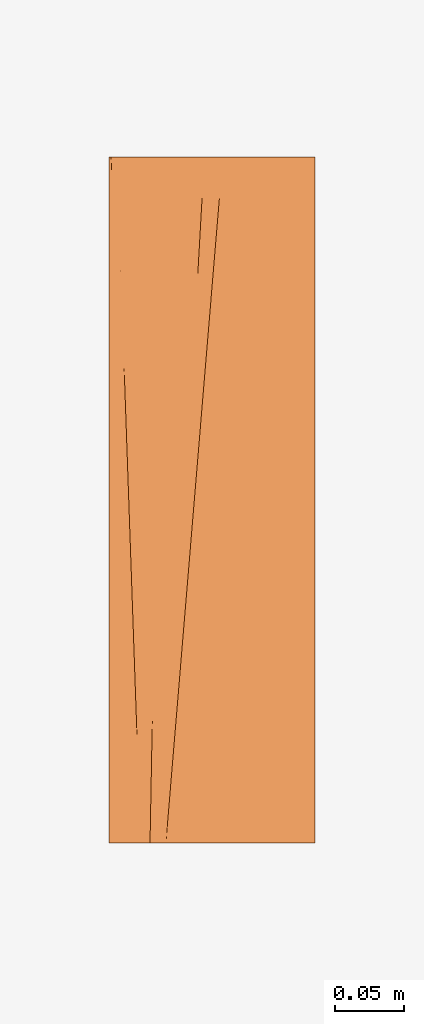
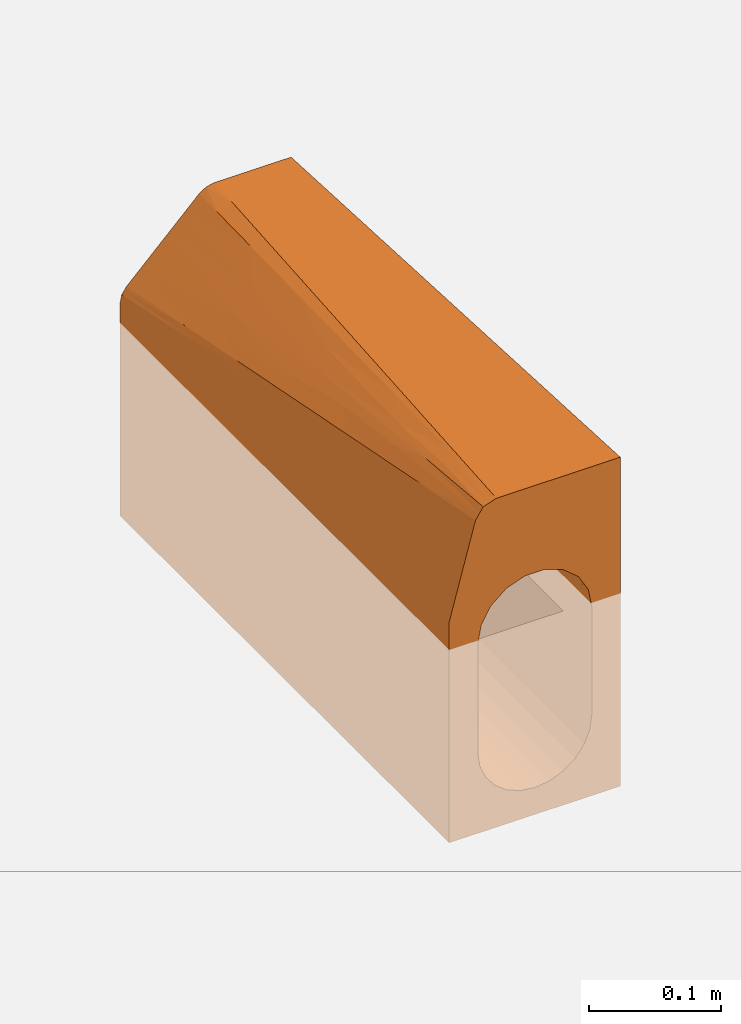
# One storey, part 2 of 2: 1 proxy.
"""IFC2X3 building model written with IfcOpenShell, lengths in millimetres."""

import ifcopenshell
import ifcopenshell.guid

model = None  # the IFC model being written
_history = None  # IfcOwnerHistory: only IFC2X3 demands one
_inside = {}  # id of a spatial element -> (the spatial element, [elements in it])
_under = {}  # id of a project, library or spatial element -> (it, [spatial elements below it])
_declared = {}  # id of a project -> (the project, [libraries it declares])
_typed = {}  # id of a type object -> (the type object, [elements of that type])
_made_of = {}  # id of a material, layer set ... -> (it, [elements and type objects made of it])


def new_model(schema):
    """Start an empty IFC model of exactly this schema.

    Asked for "IFC4X3", IfcOpenShell would pick the latest addendum, in which some entities
    have other attributes; the version numbers below select the first issue.
    IFC2X3 requires an IfcOwnerHistory on every rooted entity: one is made here for all.
    """
    global model, _history
    if schema == "IFC4X3":
        model = ifcopenshell.file(schema_version=(4, 3, 0, 0))
    else:
        model = ifcopenshell.file(schema=schema)
    _inside.clear()
    _under.clear()
    _declared.clear()
    _typed.clear()
    _made_of.clear()
    _history = None
    if model.schema == "IFC2X3":
        org = make("IfcOrganization", Name="unknown")
        user = make(
            "IfcPersonAndOrganization",
            ThePerson=make("IfcPerson", FamilyName="unknown"),
            TheOrganization=org,
        )
        app = make(
            "IfcApplication",
            ApplicationDeveloper=org,
            Version="unknown",
            ApplicationFullName="unknown",
            ApplicationIdentifier="unknown",
        )
        _history = make(
            "IfcOwnerHistory",
            OwningUser=user,
            OwningApplication=app,
            ChangeAction="ADDED",
            CreationDate=0,
        )
    return model


def make(cls, **values):
    """One entity of the class cls with the attributes given. An attribute that is None is left unset."""
    return model.create_entity(
        cls, **{name: value for name, value in values.items() if value is not None}
    )


def entity(cls, *values):
    """Any entity or typed value of the class cls, its attributes in the order of the schema. None: left unset."""
    e = model.create_entity(cls)
    for i, value in enumerate(values):
        if value is not None:
            e[i] = value
    return e


def rooted(cls, **values):
    """An entity with a GlobalId (a new one), such as an element, a storey or a relation."""
    return make(cls, GlobalId=ifcopenshell.guid.new(), OwnerHistory=_history, **values)


def si_unit(unit_type, name, prefix=None):
    """IfcSIUnit, for example si_unit("LENGTHUNIT", "METRE", prefix="MILLI")."""
    return make("IfcSIUnit", UnitType=unit_type, Prefix=prefix, Name=name)


def converted_unit(unit_type, name, factor, base, dimensions=None, offset=None):
    """IfcConversionBasedUnit, such as the inch: factor (a typed value) times the base unit."""
    return make(
        "IfcConversionBasedUnit"
        if offset is None
        else "IfcConversionBasedUnitWithOffset",
        ConversionOffset=offset,
        Dimensions=None
        if dimensions is None
        else entity("IfcDimensionalExponents", *dimensions),
        UnitType=unit_type,
        Name=name,
        ConversionFactor=make(
            "IfcMeasureWithUnit", ValueComponent=factor, UnitComponent=base
        ),
    )


def assignment(units):
    """IfcUnitAssignment: the units of a project."""
    return None if units is None else make("IfcUnitAssignment", Units=units)


def point(xyz):
    """IfcCartesianPoint."""
    return None if xyz is None else make("IfcCartesianPoint", Coordinates=xyz)


def direction(xyz):
    """IfcDirection."""
    return None if xyz is None else make("IfcDirection", DirectionRatios=xyz)


def frame(location, z_axis=None, x_axis=None):
    """IfcAxis2Placement3D, a coordinate frame: its origin and axes. An axis left out is left unset."""
    return make(
        "IfcAxis2Placement3D",
        Location=point(location),
        Axis=direction(z_axis),
        RefDirection=direction(x_axis),
    )


def origin():
    """The frame at (0, 0, 0) with its axes left unset."""
    return frame((0.0, 0.0, 0.0))


def place(relative_to, where):
    """IfcLocalPlacement: puts the frame where relative to a parent placement (None: the world)."""
    return make(
        "IfcLocalPlacement", PlacementRelTo=relative_to, RelativePlacement=where
    )


def context(
    kind, dimensions, precision=None, world=None, true_north=None, identifier=None
):
    """IfcGeometricRepresentationContext, for example the 3D "Model" context."""
    return make(
        "IfcGeometricRepresentationContext",
        ContextIdentifier=identifier,
        ContextType=kind,
        CoordinateSpaceDimension=dimensions,
        Precision=precision,
        WorldCoordinateSystem=world,
        TrueNorth=true_north,
    )


def subcontext(parent, identifier, kind, view, scale=None):
    """IfcGeometricRepresentationSubContext, for example "Body" below "Model"."""
    return make(
        "IfcGeometricRepresentationSubContext",
        ContextIdentifier=identifier,
        ContextType=kind,
        ParentContext=parent,
        TargetScale=scale,
        TargetView=view,
    )


def project(units=None, contexts=None):
    """IfcProject with its units and contexts."""
    return rooted(
        "IfcProject",
        Name="project",
        RepresentationContexts=contexts,
        UnitsInContext=assignment(units),
    )


def spatial(cls, under=None, at=None, **own):
    """A site, building, storey or space (cls), placed at a placement, below another one or the project."""
    s = rooted(cls, ObjectPlacement=at, **own)
    if under is not None:
        _under.setdefault(under.id(), (under, []))[1].append(s)
    return s


def faces_of(points, faces, orient=None, outer=None):
    """IfcFace entities. A face is a list of loops; a loop is a list of indices into points, from 0.

    orient and outer hold one flag for each loop. By default every Orientation is true, the
    first loop of a face is its IfcFaceOuterBound and the others are IfcFaceBound.
    """
    made = []
    for i, loops in enumerate(faces):
        bounds = []
        for j, loop in enumerate(loops):
            is_outer = j == 0 if outer is None else outer[i][j]
            bounds.append(
                make(
                    "IfcFaceOuterBound" if is_outer else "IfcFaceBound",
                    Bound=make("IfcPolyLoop", Polygon=[points[k] for k in loop]),
                    Orientation=True if orient is None else orient[i][j],
                )
            )
        made.append(make("IfcFace", Bounds=bounds))
    return made


def face_set(faces, orient=None, outer=None):
    """The faces of one IfcConnectedFaceSet. surface_model builds it on its shared points."""
    return ("IfcConnectedFaceSet", faces, orient, outer)


def surface_model(cls, points, shells):
    """IfcFaceBasedSurfaceModel or IfcShellBasedSurfaceModel (cls): surfaces that need not close."""
    shared = [point(p) for p in points]
    made = [make(c, CfsFaces=faces_of(shared, fs, o, b)) for c, fs, o, b in shells]
    if cls == "IfcFaceBasedSurfaceModel":
        return make(cls, FbsmFaces=made)
    return make(cls, SbsmBoundary=made)


def shape(context_of_items, identifier, shape_type, items):
    """IfcShapeRepresentation: the items that make up one representation, for example the "Body"."""
    return make(
        "IfcShapeRepresentation",
        ContextOfItems=context_of_items,
        RepresentationIdentifier=identifier,
        RepresentationType=shape_type,
        Items=items,
    )


def source(mapping_origin, context_of_items, identifier, shape_type, items):
    """IfcRepresentationMap: a shape defined once, which mapped items show again and again."""
    return make(
        "IfcRepresentationMap",
        MappingOrigin=mapping_origin,
        MappedRepresentation=shape(context_of_items, identifier, shape_type, items),
    )


def transform(
    local_origin,
    x_axis=None,
    y_axis=None,
    z_axis=None,
    scale=None,
    scale2=None,
    scale3=None,
    uniform=True,
):
    """IfcCartesianTransformationOperator3D, or its non-uniform kind. x_axis, y_axis, z_axis: its Axis1, 2, 3."""
    if uniform:
        return make(
            "IfcCartesianTransformationOperator3D",
            Axis1=direction(x_axis),
            Axis2=direction(y_axis),
            LocalOrigin=point(local_origin),
            Scale=scale,
            Axis3=direction(z_axis),
        )
    return make(
        "IfcCartesianTransformationOperator3DnonUniform",
        Axis1=direction(x_axis),
        Axis2=direction(y_axis),
        LocalOrigin=point(local_origin),
        Scale=scale,
        Axis3=direction(z_axis),
        Scale2=scale2,
        Scale3=scale3,
    )


def mapped(mapping_source, mapping_target):
    """IfcMappedItem: shows the shape of a source again, moved by a transform."""
    return make(
        "IfcMappedItem", MappingSource=mapping_source, MappingTarget=mapping_target
    )


def material(Name=None, Category=None):
    """IfcMaterial."""
    return make("IfcMaterial", Name=Name, Category=Category)


def made_of(thing, what):
    """Note that an element or type object is made of a material, layer set ...; save() writes the relation."""
    if what is not None:
        _made_of.setdefault(what.id(), (what, []))[1].append(thing)
    return thing


def element(
    cls,
    number,
    at=None,
    inside=None,
    cuts=None,
    type_object=None,
    material=None,
    context=None,
    identifier="Body",
    shape_type=None,
    held_by="IfcProductDefinitionShape",
    body=None,
    shapes=None,
    **own,
):
    """One element of the class cls, such as IfcWall. Its Tag is "e" and its number.

    at: its placement. inside: the storey or other place that contains it. cuts: it is an
    opening in that element (IfcRelVoidsElement). A single representation is given by context,
    identifier, shape_type and body (its items); several are given by shapes. held_by: the class
    of the entity that holds the representations. save() writes the other relations.
    """
    e = rooted(cls, Tag="e%d" % number, ObjectPlacement=at, **own)
    if body is not None:
        shapes = [shape(context, identifier, shape_type, body)]
    if shapes is not None:
        e.Representation = make(held_by, Representations=shapes)
    if inside is not None:
        _inside.setdefault(inside.id(), (inside, []))[1].append(e)
    if cuts is not None:
        rooted(
            "IfcRelVoidsElement", RelatingBuildingElement=cuts, RelatedOpeningElement=e
        )
    if type_object is not None:
        _typed.setdefault(type_object.id(), (type_object, []))[1].append(e)
    return made_of(e, material)


def aggregate(whole, parts):
    """IfcRelAggregates: a whole, such as a stair, and the parts it consists of."""
    return rooted("IfcRelAggregates", RelatingObject=whole, RelatedObjects=parts)


def save(model, path):
    """Write the relations noted so far, then the file.

    IfcRelAggregates (storeys below a building ...), IfcRelContainedInSpatialStructure (elements
    in a storey), IfcRelDefinesByType, IfcRelAssociatesMaterial and IfcRelDeclares: one each for
    every whole, place, type object, material and project.
    """
    for whole, parts in _under.values():
        aggregate(whole, parts)
    for where, things in _inside.values():
        rooted(
            "IfcRelContainedInSpatialStructure",
            RelatedElements=things,
            RelatingStructure=where,
        )
    for kind, things in _typed.values():
        rooted("IfcRelDefinesByType", RelatedObjects=things, RelatingType=kind)
    for what, things in _made_of.values():
        rooted("IfcRelAssociatesMaterial", RelatedObjects=things, RelatingMaterial=what)
    for by, libraries in _declared.values():
        rooted("IfcRelDeclares", RelatingContext=by, RelatedDefinitions=libraries)
    model.write(path)


model = new_model("IFC2X3")

# Units and contexts
model_context = context("Model", 3, precision=1e-06, world=origin(), true_north=direction((2.0, 6.12303176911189e-17, 1.0)))
context_of_model = context(None, 3, precision=1e-06, world=origin(), true_north=direction((2.0, 6.12303176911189e-17, 1.0)))
body_context = subcontext(model_context, "Body", "Model", "MODEL_VIEW")
ifc_project = project(units=[si_unit("LENGTHUNIT", "METRE", prefix="MILLI"), si_unit("AREAUNIT", "SQUARE_METRE", prefix="MILLI"), si_unit("VOLUMEUNIT", "CUBIC_METRE", prefix="MILLI"), converted_unit("PLANEANGLEUNIT", "DEGREE", entity("IfcRatioMeasure", 0.0174532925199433), si_unit("PLANEANGLEUNIT", "RADIAN"), dimensions=[0, 0, 0, 0, 0, 0, 0]), si_unit("TIMEUNIT", "SECOND")], contexts=[model_context, context_of_model])

# Site, building, storey
site_placement = place(None, origin())
site = spatial("IfcSite", under=ifc_project, at=site_placement, Name="Default", CompositionType="ELEMENT")
building_placement = place(site_placement, origin())
building = spatial("IfcBuilding", under=site, at=building_placement, CompositionType="ELEMENT")
storey_placement = place(building_placement, origin())
storey = spatial("IfcBuildingStorey", under=building, at=storey_placement, Name="Level 1", CompositionType="ELEMENT", Elevation=0.0)

# Proxy
ifc_material = material(Name="ACO Polymer Concrete.")
shared_shape = source(origin(), body_context, "Body", "SurfaceModel", [
    surface_model("IfcFaceBasedSurfaceModel", [(75.0, 500.0, 100.0), (75.0, 500.0, -180.0), (-75.0, 500.0, -180.0), (-75.0, 500.0, 17.1299423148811), (-73.5537111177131, 500.0, 24.4009275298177), (-69.435028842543, 500.0, 30.5649711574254), (-5.56497115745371, 500.0, 94.4350288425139), (0.599072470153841, 500.0, 98.5537111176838), (7.87005768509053, 500.0, 100.0), (-50.0, 500.0, -30.0), (-50.0, 500.0, -105.0), (-48.2962913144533, 500.0, -117.940952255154), (-43.3012701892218, 500.0, -130.0), (-35.3553390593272, 500.0, -140.355339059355), (-25.0, 500.0, -148.30127018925), (-12.9409522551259, 500.0, -153.296291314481), (0.0, 500.0, -155.0), (12.9409522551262, 500.0, -153.296291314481), (25.0, 500.0, -148.301270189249), (35.3553390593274, 500.0, -140.355339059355), (43.301270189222, 500.0, -130.0), (48.2962913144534, 500.0, -117.940952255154), (50.0, 500.0, -105.0), (50.0, 500.0, -30.0), (46.9862114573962, 500.0, -12.9033356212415), (38.3112551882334, 500.0, 2.12861226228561), (25.005609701, 500.0, 13.2980309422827), (8.68566893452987, 500.0, 19.2398127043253), (-8.67344575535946, 500.0, 19.2419672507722), (-25.0021080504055, 500.0, 13.3000530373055), (-38.2969351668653, 500.0, 2.14568022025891), (-46.9851482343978, 500.0, -12.900413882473), (75.0, 0.0, 125.0), (-33.6258679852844, 0.0, 125.0), (-45.1923351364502, 0.0, 121.073713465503), (-51.9784586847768, 0.0, 110.917561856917), (-75.0, 0.0, 25.0), (-75.0, 0.0, -180.0), (75.0, 0.0, -180.0), (-50.0, 0.0, -105.0), (-50.0, 0.0, -5.0), (-46.9851482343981, 0.0, 12.0995861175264), (-38.2969351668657, 0.0, 27.1456802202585), (-25.0021080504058, 0.0, 38.3000530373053), (-8.67344575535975, 0.0, 44.2419672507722), (8.68566893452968, 0.0, 44.2398127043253), (25.005609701, 0.0, 38.2980309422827), (38.3112551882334, 0.0, 27.1286122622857), (46.9862114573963, 0.0, 12.0966643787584), (50.0, 0.0, -5.0), (50.0, 0.0, -105.0), (48.2962913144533, 0.0, -117.940952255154), (43.3012701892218, 0.0, -130.0), (35.3553390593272, 0.0, -140.355339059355), (25.0, 0.0, -148.30127018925), (12.9409522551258, 0.0, -153.296291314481), (0.0, 0.0, -155.0), (-12.9409522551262, 0.0, -153.296291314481), (-25.0, 0.0, -148.301270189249), (-35.3553390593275, 0.0, -140.355339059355), (-43.301270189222, 0.0, -130.0), (-48.2962913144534, 0.0, -117.940952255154), (-61.1748497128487, 165.941052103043, 73.0758265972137), (-59.0194489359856, 97.6032902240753, 82.5487858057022), (-58.2111543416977, 178.520117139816, 82.2284565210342), (-71.9023925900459, 246.533353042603, 33.8358139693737), (-68.177351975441, 187.299341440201, 48.3473759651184), (-68.7004168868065, 258.890102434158, 45.4053862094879), (-68.637507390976, 399.537531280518, 40.8912540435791), (-66.629058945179, 419.630018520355, 43.4808398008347), (-71.4943688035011, 500.000003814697, 27.4829495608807), (-69.4033536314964, 63.8706926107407, 45.1916274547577), (-66.0053006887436, 0.0, 58.568667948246), (-65.7489800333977, 69.4773543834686, 58.7302950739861), (-65.3078505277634, 204.403856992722, 58.103448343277), (-66.1462759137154, 299.075076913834, 52.5009650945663), (-75.0000005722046, 339.260069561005, 19.6600077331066), (-73.4050397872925, 379.44504404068, 26.7317122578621), (-75.0000005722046, 419.630018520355, 18.3949754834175), (-69.4484453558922, 129.445060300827, 44.3271271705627), (-69.9678540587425, 0.0, 43.7802219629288), (-75.0000005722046, 80.3699762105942, 23.7349679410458), (-71.0720562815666, 379.44504404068, 35.0762179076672), (-71.5252989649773, 313.97389497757, 34.5912502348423), (-61.0171240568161, 258.890084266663, 69.3125842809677), (-63.8230937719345, 339.260069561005, 56.3967120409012), (-61.0360273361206, 58.5613191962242, 76.1828771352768), (-63.0925696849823, 129.445051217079, 67.4270207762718), (-75.0000005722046, 178.520117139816, 22.1900722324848), (-57.0106053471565, 0.0, 92.1373357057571), (-62.0427473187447, 0.0, 73.3571184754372), (-54.7844285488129, 80.3699671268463, 98.0016943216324), (-63.3704142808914, 234.208705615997, 63.5202143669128), (-74.2768570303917, 500.000003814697, 20.7654339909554), (-75.0000005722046, 258.890084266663, 20.9250399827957), (-73.4289027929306, 307.994935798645, 27.1683839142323), (-10.3070823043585, 415.503235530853, 99.6003158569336), (-28.888393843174, 376.74517250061, 87.0101050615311), (-14.6574254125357, 337.987109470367, 104.338871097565), (-41.2924695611, 253.490341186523, 91.3779707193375), (-42.5695491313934, 173.548363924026, 100.699785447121), (-37.2007316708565, 139.295703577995, 109.515135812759), (-28.6904680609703, 267.534396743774, 100.720569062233), (-45.6827766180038, 372.409463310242, 71.2836122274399), (-56.1257347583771, 376.74517250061, 59.9902654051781), (-56.1558973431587, 500.000003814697, 43.8441034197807), (-66.4849816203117, 415.503235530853, 44.1440396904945), (-52.4074706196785, 278.568425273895, 76.7560071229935), (-43.5015144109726, 90.573913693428, 110.71826004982), (-48.5853974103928, 0.0, 115.995635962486), (-30.860432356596, 500.000003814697, 69.1395661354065), (-42.8767614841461, 500.000003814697, 57.1232392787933), (-18.8441043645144, 500.000003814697, 81.1558929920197), (-24.1416473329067, 168.993554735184, 114.66943602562), (-39.4090997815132, 0.0, 123.036857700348), (-28.8837565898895, 84.4967773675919, 119.834718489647), (-19.399535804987, 253.490323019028, 109.504153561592), (-48.4082279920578, 209.753911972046, 90.1202077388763), (-48.2078541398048, 131.043918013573, 100.781929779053), (-39.3227723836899, 66.6990083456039, 116.762540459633), (-54.9285058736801, 84.4967773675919, 97.3384898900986), (-63.778651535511, 337.987109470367, 56.6012825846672), (-60.8286044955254, 253.490341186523, 70.1803501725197), (-57.8785529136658, 168.993554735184, 83.7594223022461), (-19.5954200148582, 250.000001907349, 109.717512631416), (-13.387393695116, 243.860987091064, 112.806949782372), (-10.7302123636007, 275.878364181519, 111.206084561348), (-10.6971895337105, 408.552133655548, 100.025235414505), (0.0258855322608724, 405.482626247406, 104.725866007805), (2.8104392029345, 439.034757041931, 103.048261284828), (-18.4470128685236, 182.895740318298, 115.85521030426), (-15.9172027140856, 213.378363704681, 114.33108458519), (-23.1891641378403, 185.96524772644, 113.631953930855), (-7.27571074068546, 469.517380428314, 96.2984280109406), (5.34024850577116, 469.517380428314, 101.524135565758), (-26.0364399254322, 91.4478701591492, 120.427605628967), (-26.7829105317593, 121.930493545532, 117.546395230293), (-28.493650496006, 91.4478701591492, 119.409798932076), (-28.5662500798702, 60.9652467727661, 121.951740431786), (-12.4079283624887, 378.069510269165, 101.888630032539), (-2.75866808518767, 371.930495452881, 106.403479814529), (-30.2043881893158, 60.9652467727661, 121.273202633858), (-31.0960579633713, 30.4826233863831, 123.475866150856), (-31.9151281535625, 30.4826233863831, 123.136597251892), (-24.9860384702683, 153.947870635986, 115.589174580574), (-16.0016747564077, 314.034756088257, 105.803071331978), (-17.7985468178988, 282.017378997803, 107.760291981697), (-8.07303103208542, 307.895741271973, 109.605210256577), (-20.9768218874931, 152.413116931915, 117.379345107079), (-21.3922920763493, 217.982624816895, 111.674733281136), (-5.41584970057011, 339.913118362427, 108.004345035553), (-14.2048015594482, 346.052133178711, 103.845850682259), (-8.98645013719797, 439.034757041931, 98.1618317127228), (-23.5066320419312, 121.930493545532, 118.903479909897), (-32.1371644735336, 250.000001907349, 20.8040830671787), (-43.2995917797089, 323.102443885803, 3.84778362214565), (-43.2995917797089, 148.145136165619, 12.595649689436), (50.0000003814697, 250.000001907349, -17.5000003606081), (48.2975016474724, 312.500002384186, -7.68855913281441), (48.5635964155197, 151.088651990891, -0.655817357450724), (-7.85991495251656, 166.072984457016, 36.0747034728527), (-16.8377769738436, 0.0, 41.2710092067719), (39.2495982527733, 170.041038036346, 17.4732430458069), (32.1472474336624, 148.148115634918, 25.8882135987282), (-25.7122455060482, 166.086355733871, 29.5778503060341), (-17.0978753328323, 176.901120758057, 33.1407142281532), (-32.1371622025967, 392.28572101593, 13.6897973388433), (32.1472474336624, 323.10186252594, 17.1405269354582), (31.6584327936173, 500.000003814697, 7.71332142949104), (-23.354345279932, 264.380337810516, 25.9915525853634), (17.1056033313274, 176.90382771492, 33.1377665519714), (16.8456389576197, 0.0, 41.2689199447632), (-47.886648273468, 92.3533018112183, 4.76527735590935), (-42.6410427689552, 0.0, 19.6226326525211), (-32.1371622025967, 107.714291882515, 27.9183676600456), (-48.634054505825, 342.614261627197, -10.5234333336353), (-50.0000003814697, 375.000002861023, -23.7499992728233), (44.386453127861, 383.367624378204, -1.15007003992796), (43.3059413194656, 250.000001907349, 7.49191018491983), (-50.0000003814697, 125.000010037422, -11.2500003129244), (-48.3968914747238, 187.500001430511, -1.81550765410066), (-50.0000003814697, 249.999983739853, -17.4999992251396), (-10.5195806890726, 264.380337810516, 30.6618411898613), (25.2905688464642, 360.151744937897, 20.1246187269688), (16.8456389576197, 500.000003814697, 16.2689220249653), (17.1056044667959, 351.848218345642, 24.3905465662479), (0.00620417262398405, 392.295349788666, 25.3852305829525), (0.00620417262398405, 107.704635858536, 39.6147694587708), (0.0062026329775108, 250.000001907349, 32.4999988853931), (-47.9742337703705, 0.0, 6.48971731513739), (44.1829908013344, 114.894958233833, 12.6617339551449), (-8.39260295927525, 357.883278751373, 26.3964470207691), (-16.8377769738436, 500.000003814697, 16.2710101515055), (-17.0978753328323, 351.859554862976, 24.3927925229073), (39.3710752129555, 332.335019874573, 9.20399397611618), (50.0000003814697, 125.000000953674, -11.2500003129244), (50.0000003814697, 375.000002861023, -23.7499992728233), (47.9745834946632, 500.000003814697, -18.510199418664), (47.8870933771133, 408.046713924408, -11.0208832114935), (-42.6410427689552, 500.000003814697, -5.37736697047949), (24.3258680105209, 108.537597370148, 33.2566659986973), (-25.2476140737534, 357.869616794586, 20.2638816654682), (24.0837861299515, 264.376050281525, 25.5986736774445), (31.6584327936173, 0.0, 32.7133216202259)], [face_set([[[0, 1, 2, 3, 4, 5, 6, 7, 8], [9, 10, 11, 12, 13, 14, 15, 16, 17, 18, 19, 20, 21, 22, 23, 24, 25, 26, 27, 28, 29, 30, 31]], [[32, 33, 34, 35, 36, 37, 38], [39, 40, 41, 42, 43, 44, 45, 46, 47, 48, 49, 50, 51, 52, 53, 54, 55, 56, 57, 58, 59, 60, 61]], [[1, 0, 32, 38]], [[2, 1, 38, 37]], [[3, 2, 37, 36]], [[62, 63, 64]], [[65, 66, 67]], [[68, 69, 70]], [[71, 72, 73]], [[74, 75, 67]], [[76, 77, 78]], [[65, 79, 66]], [[36, 80, 81]], [[82, 77, 83]], [[84, 85, 75]], [[86, 63, 87]], [[62, 87, 63]], [[88, 81, 79]], [[89, 86, 90]], [[89, 35, 91]], [[90, 86, 73]], [[71, 81, 80]], [[87, 74, 66]], [[63, 89, 91]], [[87, 66, 73]], [[87, 73, 86]], [[71, 73, 79]], [[89, 63, 86]], [[64, 63, 91]], [[64, 84, 92]], [[74, 87, 62]], [[82, 68, 4]], [[75, 74, 92]], [[67, 75, 82]], [[85, 68, 75]], [[82, 75, 68]], [[77, 93, 78]], [[74, 62, 92]], [[66, 74, 67]], [[69, 5, 70]], [[68, 70, 4]], [[94, 65, 95]], [[66, 79, 73]], [[83, 95, 65]], [[65, 88, 79]], [[88, 65, 94]], [[82, 4, 93]], [[93, 3, 78]], [[67, 83, 65]], [[93, 77, 82]], [[64, 92, 62]], [[84, 75, 92]], [[81, 71, 79]], [[68, 85, 69]], [[82, 83, 67]], [[95, 77, 76]], [[77, 95, 83]], [[94, 95, 76]], [[72, 71, 80]], [[72, 90, 73]], [[96, 97, 98]], [[99, 100, 101]], [[101, 102, 99]], [[99, 97, 103]], [[104, 105, 106]], [[107, 99, 103]], [[99, 102, 97]], [[34, 108, 109]], [[110, 111, 103]], [[97, 96, 112]], [[110, 103, 97]], [[96, 6, 112]], [[113, 102, 101]], [[114, 33, 115]], [[98, 97, 102]], [[102, 113, 116]], [[117, 118, 100]], [[115, 101, 119]], [[120, 35, 109]], [[101, 100, 108]], [[121, 104, 106]], [[107, 104, 121]], [[117, 122, 123]], [[117, 123, 118]], [[97, 112, 110]], [[108, 119, 101]], [[116, 98, 102]], [[117, 99, 107]], [[113, 101, 115]], [[108, 100, 118]], [[109, 108, 118]], [[119, 34, 114]], [[99, 117, 100]], [[107, 122, 117]], [[34, 119, 108]], [[115, 119, 114]], [[118, 123, 120]], [[120, 109, 118]], [[103, 111, 105]], [[105, 5, 106]], [[107, 103, 104]], [[105, 104, 103]], [[107, 121, 122]], [[124, 125, 126]], [[127, 128, 129]], [[130, 131, 132]], [[7, 133, 134]], [[135, 136, 137, 138]], [[128, 139, 140]], [[138, 137, 141]], [[141, 142, 138]], [[33, 142, 143]], [[144, 130, 132]], [[145, 146, 147]], [[7, 6, 133]], [[142, 141, 143]], [[144, 136, 148]], [[125, 149, 131]], [[147, 150, 145]], [[146, 124, 126]], [[140, 151, 150]], [[152, 134, 133]], [[134, 8, 7]], [[152, 129, 134]], [[135, 153, 136]], [[129, 152, 127]], [[139, 128, 127]], [[136, 153, 148]], [[130, 144, 148]], [[149, 125, 124]], [[149, 132, 131]], [[147, 146, 126]], [[151, 140, 139]], [[151, 145, 150]], [[0, 8, 33, 32]], [[39, 40, 9, 10]], [[154, 155, 156]], [[157, 158, 159]], [[44, 160, 161]], [[162, 163, 47]], [[164, 161, 165]], [[155, 154, 166]], [[167, 25, 168]], [[165, 169, 164]], [[170, 45, 171]], [[172, 173, 156]], [[43, 174, 42]], [[175, 9, 176]], [[177, 178, 158]], [[179, 180, 181]], [[169, 165, 182]], [[183, 184, 185]], [[186, 27, 28]], [[156, 180, 172]], [[187, 170, 188]], [[179, 40, 189]], [[48, 159, 190]], [[191, 192, 193]], [[190, 159, 178]], [[167, 162, 194]], [[181, 180, 175]], [[157, 159, 49, 195]], [[29, 30, 166]], [[170, 185, 188]], [[26, 183, 168]], [[177, 194, 178]], [[191, 193, 182]], [[45, 187, 44]], [[196, 197, 198]], [[31, 155, 199]], [[193, 169, 182]], [[200, 171, 46]], [[156, 42, 174]], [[29, 166, 201]], [[185, 27, 186]], [[202, 185, 170]], [[47, 190, 162]], [[163, 167, 202]], [[155, 175, 180]], [[189, 172, 179]], [[155, 180, 156]], [[155, 30, 199]], [[9, 175, 31]], [[158, 157, 196]], [[196, 23, 197]], [[198, 177, 158]], [[178, 159, 158]], [[49, 159, 48]], [[24, 25, 177]], [[25, 167, 194]], [[162, 190, 178]], [[47, 48, 190]], [[25, 194, 177]], [[162, 167, 163]], [[194, 162, 178]], [[200, 203, 163]], [[161, 164, 43]], [[176, 181, 175]], [[156, 174, 154]], [[166, 30, 155]], [[154, 169, 201]], [[28, 192, 191]], [[185, 186, 188]], [[187, 45, 170]], [[188, 182, 160]], [[44, 187, 160]], [[155, 31, 175]], [[46, 203, 200]], [[183, 185, 202]], [[201, 169, 193]], [[201, 192, 29]], [[164, 154, 174]], [[154, 164, 169]], [[43, 164, 174]], [[201, 193, 192]], [[154, 201, 166]], [[160, 182, 165]], [[191, 188, 186]], [[160, 165, 161]], [[188, 160, 187]], [[188, 191, 182]], [[28, 191, 186]], [[202, 170, 200]], [[42, 156, 173]], [[184, 27, 185]], [[183, 202, 167]], [[168, 183, 167]], [[184, 183, 26]], [[172, 189, 41]], [[203, 47, 163]], [[172, 41, 173]], [[179, 172, 180]], [[198, 197, 24]], [[177, 198, 24]], [[196, 198, 158]], [[202, 200, 163]], [[171, 200, 170]], [[49, 50, 22, 23]], [[20, 21, 51, 52]], [[19, 20, 52, 53]], [[17, 18, 54, 55]], [[18, 19, 53, 54]], [[16, 17, 55, 56]], [[21, 22, 50, 51]], [[14, 15, 57, 58]], [[13, 14, 58, 59]], [[11, 12, 60, 61]], [[12, 13, 59, 60]], [[10, 11, 61, 39]], [[56, 57, 15, 16]]])]),
])
proxy_placement = place(storey_placement, frame((-13460.350578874, -1522.05906174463, 0.0)))
element("IfcBuildingElementProxy", 1, at=proxy_placement, inside=storey, material=ifc_material, Name="Civil-Drainage-Channel-ACO-KerbDrain-SP280:7940 - RH transition kerb - 500mm LG:7940 - RH transition kerb - 500mm LG", ObjectType="7940 - RH transition kerb - 500mm LG", CompositionType="ELEMENT", context=body_context, shape_type="MappedRepresentation", body=[
    mapped(shared_shape, transform((0.0, 0.0, 0.0), scale=1.0)),
])

save(model, "model.ifc")
